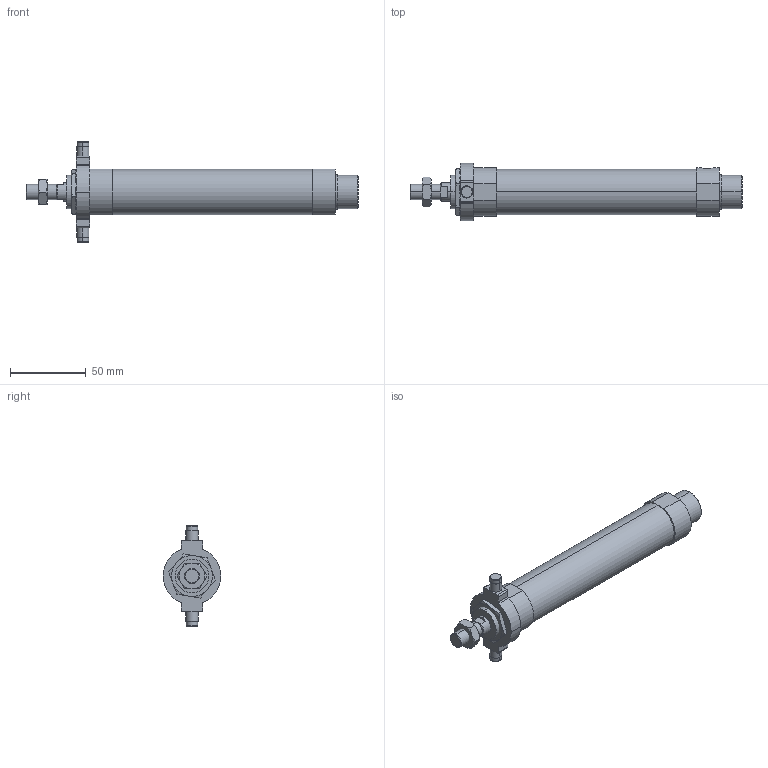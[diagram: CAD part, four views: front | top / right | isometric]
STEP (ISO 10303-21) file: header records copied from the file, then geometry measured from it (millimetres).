
FILE_DESCRIPTION (( 'STEP AP203' ), '1' );
FILE_NAME ('J#1-25-50-T.STEP', '2016-03-08T06:50:37', ( '' ), ( '' ), 'SwSTEP 2.0', 'SolidWorks 2014', '' );
FILE_SCHEMA (( 'CONFIG_CONTROL_DESIGN' ));
Length unit declared in the file: millimetre
Products named in the file (5): J#2-25-T; J#1-25-50-T; J#1-25-50
Assembly tree (4 placements, depth 2):
  J#1-25-50-T
    J#1-25-50
    (unnamed)
    J#2-25-T
    (unnamed)
Bounding box: 219 x 38 x 66 mm (x, y, z)
Volume: 140128.3 mm3; surface area: 26762.8 mm2
Topology: 4 solids, 4 shells, 132 faces, 297 edges, 179 vertices
Faces by surface type: plane 47, cylinder 45, torus 24, cone 16
Entity records: 4426 total; most frequent: CARTESIAN_POINT 971, DIRECTION 645, ORIENTED_EDGE 590, EDGE_CURVE 295, AXIS2_PLACEMENT_3D 265, VERTEX_POINT 179, EDGE_LOOP 146, ADVANCED_FACE 132
